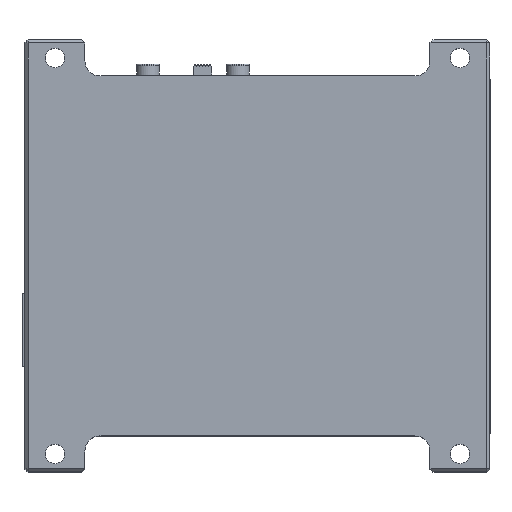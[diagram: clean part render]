
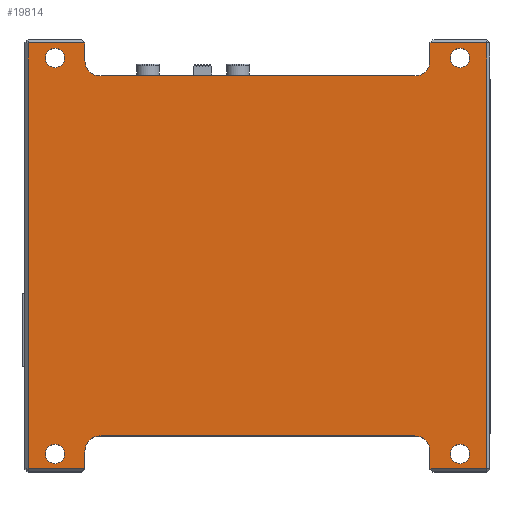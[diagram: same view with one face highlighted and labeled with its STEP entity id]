
A CAD part, top view. The second image highlights one B-rep face of the part: STEP entity #19814.
In plain terms, the highlighted planar face has unit normal (0, 0, 1).
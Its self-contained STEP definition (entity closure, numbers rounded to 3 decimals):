
#404=FACE_BOUND('',#6619,.T.);
#405=FACE_BOUND('',#6620,.T.);
#406=FACE_BOUND('',#6621,.T.);
#407=FACE_BOUND('',#6622,.T.);
#630=PLANE('',#21021);
#1388=LINE('',#28181,#3307);
#1395=LINE('',#28196,#3314);
#1400=LINE('',#28206,#3319);
#1406=LINE('',#28218,#3325);
#1409=LINE('',#28224,#3328);
#1410=LINE('',#28228,#3329);
#1411=LINE('',#28232,#3330);
#1412=LINE('',#28234,#3331);
#1413=LINE('',#28236,#3332);
#1414=LINE('',#28238,#3333);
#1415=LINE('',#28240,#3334);
#1416=LINE('',#28244,#3335);
#3307=VECTOR('',#22861,10.);
#3314=VECTOR('',#22874,10.);
#3319=VECTOR('',#22883,10.);
#3325=VECTOR('',#22893,10.);
#3328=VECTOR('',#22898,10.);
#3329=VECTOR('',#22901,10.);
#3330=VECTOR('',#22904,10.);
#3331=VECTOR('',#22905,10.);
#3332=VECTOR('',#22906,10.);
#3333=VECTOR('',#22907,10.);
#3334=VECTOR('',#22908,10.);
#3335=VECTOR('',#22911,10.);
#5486=FACE_OUTER_BOUND('',#6618,.T.);
#6618=EDGE_LOOP('',(#13345,#13346,#13347,#13348,#13349,#13350,#13351,#13352,
#13353,#13354,#13355,#13356,#13357,#13358,#13359,#13360));
#6619=EDGE_LOOP('',(#13361));
#6620=EDGE_LOOP('',(#13362));
#6621=EDGE_LOOP('',(#13363));
#6622=EDGE_LOOP('',(#13364));
#7900=CIRCLE('',#21022,2.5);
#7901=CIRCLE('',#21023,2.5);
#7902=CIRCLE('',#21024,2.5);
#7903=CIRCLE('',#21025,2.5);
#7904=CIRCLE('',#21026,1.6);
#7905=CIRCLE('',#21027,1.6);
#7906=CIRCLE('',#21028,1.6);
#7907=CIRCLE('',#21029,1.6);
#8540=VERTEX_POINT('',#28169);
#8541=VERTEX_POINT('',#28173);
#8546=VERTEX_POINT('',#28189);
#8551=VERTEX_POINT('',#28205);
#8555=VERTEX_POINT('',#28217);
#8557=VERTEX_POINT('',#28223);
#8558=VERTEX_POINT('',#28225);
#8559=VERTEX_POINT('',#28227);
#8560=VERTEX_POINT('',#28229);
#8561=VERTEX_POINT('',#28231);
#8562=VERTEX_POINT('',#28233);
#8563=VERTEX_POINT('',#28235);
#8564=VERTEX_POINT('',#28237);
#8565=VERTEX_POINT('',#28239);
#8566=VERTEX_POINT('',#28241);
#8567=VERTEX_POINT('',#28243);
#8568=VERTEX_POINT('',#28246);
#8569=VERTEX_POINT('',#28248);
#8570=VERTEX_POINT('',#28250);
#8571=VERTEX_POINT('',#28252);
#10401=EDGE_CURVE('',#8541,#8540,#1388,.T.);
#10408=EDGE_CURVE('',#8546,#8541,#1395,.T.);
#10413=EDGE_CURVE('',#8551,#8546,#1400,.T.);
#10419=EDGE_CURVE('',#8555,#8540,#1406,.T.);
#10422=EDGE_CURVE('',#8551,#8557,#1409,.T.);
#10423=EDGE_CURVE('',#8558,#8557,#7900,.T.);
#10424=EDGE_CURVE('',#8558,#8559,#1410,.T.);
#10425=EDGE_CURVE('',#8560,#8559,#7901,.T.);
#10426=EDGE_CURVE('',#8560,#8561,#1411,.T.);
#10427=EDGE_CURVE('',#8562,#8561,#1412,.T.);
#10428=EDGE_CURVE('',#8563,#8562,#1413,.T.);
#10429=EDGE_CURVE('',#8564,#8563,#1414,.T.);
#10430=EDGE_CURVE('',#8564,#8565,#1415,.T.);
#10431=EDGE_CURVE('',#8566,#8565,#7902,.T.);
#10432=EDGE_CURVE('',#8566,#8567,#1416,.T.);
#10433=EDGE_CURVE('',#8555,#8567,#7903,.T.);
#10434=EDGE_CURVE('',#8568,#8568,#7904,.T.);
#10435=EDGE_CURVE('',#8569,#8569,#7905,.T.);
#10436=EDGE_CURVE('',#8570,#8570,#7906,.T.);
#10437=EDGE_CURVE('',#8571,#8571,#7907,.T.);
#13345=ORIENTED_EDGE('',*,*,#10401,.F.);
#13346=ORIENTED_EDGE('',*,*,#10408,.F.);
#13347=ORIENTED_EDGE('',*,*,#10413,.F.);
#13348=ORIENTED_EDGE('',*,*,#10422,.T.);
#13349=ORIENTED_EDGE('',*,*,#10423,.F.);
#13350=ORIENTED_EDGE('',*,*,#10424,.T.);
#13351=ORIENTED_EDGE('',*,*,#10425,.F.);
#13352=ORIENTED_EDGE('',*,*,#10426,.T.);
#13353=ORIENTED_EDGE('',*,*,#10427,.F.);
#13354=ORIENTED_EDGE('',*,*,#10428,.F.);
#13355=ORIENTED_EDGE('',*,*,#10429,.F.);
#13356=ORIENTED_EDGE('',*,*,#10430,.T.);
#13357=ORIENTED_EDGE('',*,*,#10431,.F.);
#13358=ORIENTED_EDGE('',*,*,#10432,.T.);
#13359=ORIENTED_EDGE('',*,*,#10433,.F.);
#13360=ORIENTED_EDGE('',*,*,#10419,.T.);
#13361=ORIENTED_EDGE('',*,*,#10434,.T.);
#13362=ORIENTED_EDGE('',*,*,#10435,.T.);
#13363=ORIENTED_EDGE('',*,*,#10436,.T.);
#13364=ORIENTED_EDGE('',*,*,#10437,.T.);
#19814=ADVANCED_FACE('',(#5486,#404,#405,#406,#407),#630,.F.);
#21021=AXIS2_PLACEMENT_3D('',#28222,#22896,#22897);
#21022=AXIS2_PLACEMENT_3D('',#28226,#22899,#22900);
#21023=AXIS2_PLACEMENT_3D('',#28230,#22902,#22903);
#21024=AXIS2_PLACEMENT_3D('',#28242,#22909,#22910);
#21025=AXIS2_PLACEMENT_3D('',#28245,#22912,#22913);
#21026=AXIS2_PLACEMENT_3D('',#28247,#22914,#22915);
#21027=AXIS2_PLACEMENT_3D('',#28249,#22916,#22917);
#21028=AXIS2_PLACEMENT_3D('',#28251,#22918,#22919);
#21029=AXIS2_PLACEMENT_3D('',#28253,#22920,#22921);
#22861=DIRECTION('',(1.,0.,0.));
#22874=DIRECTION('',(0.,1.,0.));
#22883=DIRECTION('',(-1.,0.,0.));
#22893=DIRECTION('',(0.,1.,0.));
#22896=DIRECTION('center_axis',(0.,0.,
-1.));
#22897=DIRECTION('ref_axis',(1.,0.,0.));
#22898=DIRECTION('',(0.,1.,0.));
#22899=DIRECTION('center_axis',(0.,0.,
1.));
#22900=DIRECTION('ref_axis',(-0.707,0.707,0.));
#22901=DIRECTION('',(1.,0.,0.));
#22902=DIRECTION('center_axis',(0.,0.,
1.));
#22903=DIRECTION('ref_axis',(0.707,0.707,0.));
#22904=DIRECTION('',(0.,-1.,0.));
#22905=DIRECTION('',(-1.,0.,0.));
#22906=DIRECTION('',(0.,-1.,0.));
#22907=DIRECTION('',(1.,0.,0.));
#22908=DIRECTION('',(0.,-1.,0.));
#22909=DIRECTION('center_axis',(0.,0.,
1.));
#22910=DIRECTION('ref_axis',(0.707,-0.707,0.));
#22911=DIRECTION('',(-1.,0.,0.));
#22912=DIRECTION('center_axis',(0.,0.,
1.));
#22913=DIRECTION('ref_axis',(-0.707,-0.707,0.));
#22914=DIRECTION('center_axis',(0.,0.,
-1.));
#22915=DIRECTION('ref_axis',(1.,0.,0.));
#22916=DIRECTION('center_axis',(0.,0.,
-1.));
#22917=DIRECTION('ref_axis',(1.,0.,0.));
#22918=DIRECTION('center_axis',(0.,0.,
-1.));
#22919=DIRECTION('ref_axis',(1.,0.,0.));
#22920=DIRECTION('center_axis',(0.,0.,
-1.));
#22921=DIRECTION('ref_axis',(1.,0.,0.));
#28169=CARTESIAN_POINT('',(-30.6,35.775,5.75));
#28173=CARTESIAN_POINT('',(-40.1,35.775,5.75));
#28181=CARTESIAN_POINT('',(-16.225,35.775,5.75));
#28189=CARTESIAN_POINT('',(-40.1,-35.225,5.75));
#28196=CARTESIAN_POINT('',(-40.1,15.275,5.75));
#28205=CARTESIAN_POINT('',(-30.6,-35.225,5.75));
#28206=CARTESIAN_POINT('',(-21.225,-35.225,5.75));
#28217=CARTESIAN_POINT('',(-30.6,32.775,5.75));
#28218=CARTESIAN_POINT('',(-30.6,30.275,5.75));
#28222=CARTESIAN_POINT('Origin',(-1.85,0.275,5.75));
#28223=CARTESIAN_POINT('',(-30.6,-32.225,5.75));
#28224=CARTESIAN_POINT('',(-30.6,-35.725,5.75));
#28225=CARTESIAN_POINT('',(-28.1,-29.725,5.75));
#28226=CARTESIAN_POINT('Origin',(-28.1,-32.225,5.75));
#28227=CARTESIAN_POINT('',(24.4,-29.725,5.75));
#28228=CARTESIAN_POINT('',(-40.6,-29.725,5.75));
#28229=CARTESIAN_POINT('',(26.9,-32.225,5.75));
#28230=CARTESIAN_POINT('Origin',(24.4,-32.225,5.75));
#28231=CARTESIAN_POINT('',(26.9,-35.225,5.75));
#28232=CARTESIAN_POINT('',(26.9,-29.725,5.75));
#28233=CARTESIAN_POINT('',(36.4,-35.225,5.75));
#28234=CARTESIAN_POINT('',(12.525,-35.225,5.75));
#28235=CARTESIAN_POINT('',(36.4,35.775,5.75));
#28236=CARTESIAN_POINT('',(36.4,-14.725,5.75));
#28237=CARTESIAN_POINT('',(26.9,35.775,5.75));
#28238=CARTESIAN_POINT('',(17.525,35.775,5.75));
#28239=CARTESIAN_POINT('',(26.9,32.775,5.75));
#28240=CARTESIAN_POINT('',(26.9,36.275,5.75));
#28241=CARTESIAN_POINT('',(24.4,30.275,5.75));
#28242=CARTESIAN_POINT('Origin',(24.4,32.775,5.75));
#28243=CARTESIAN_POINT('',(-28.1,30.275,5.75));
#28244=CARTESIAN_POINT('',(36.9,30.275,5.75));
#28245=CARTESIAN_POINT('Origin',(-28.1,32.775,5.75));
#28246=CARTESIAN_POINT('',(-37.2,-32.725,5.75));
#28247=CARTESIAN_POINT('Origin',(-35.6,-32.725,5.75));
#28248=CARTESIAN_POINT('',(30.3,-32.725,5.75));
#28249=CARTESIAN_POINT('Origin',(31.9,-32.725,5.75));
#28250=CARTESIAN_POINT('',(-37.2,33.275,5.75));
#28251=CARTESIAN_POINT('Origin',(-35.6,33.275,5.75));
#28252=CARTESIAN_POINT('',(30.3,33.275,5.75));
#28253=CARTESIAN_POINT('Origin',(31.9,33.275,5.75));
